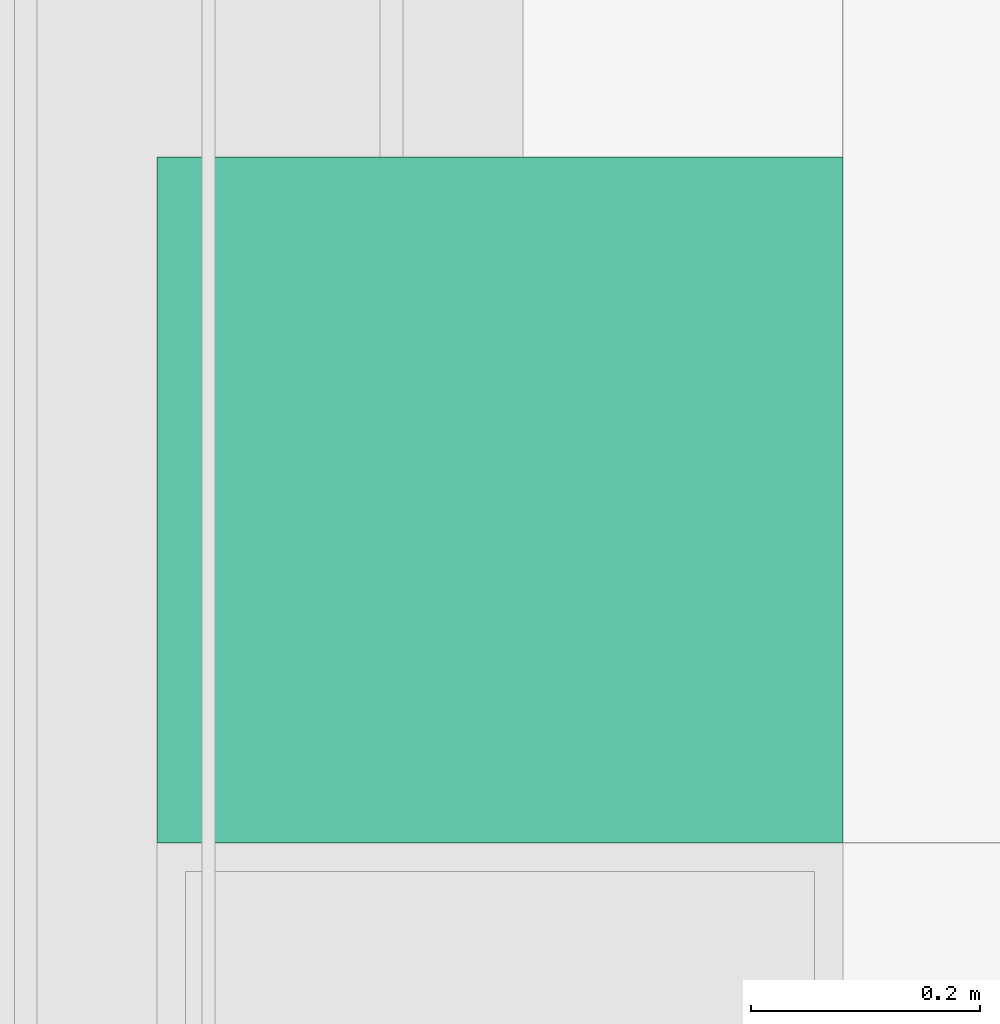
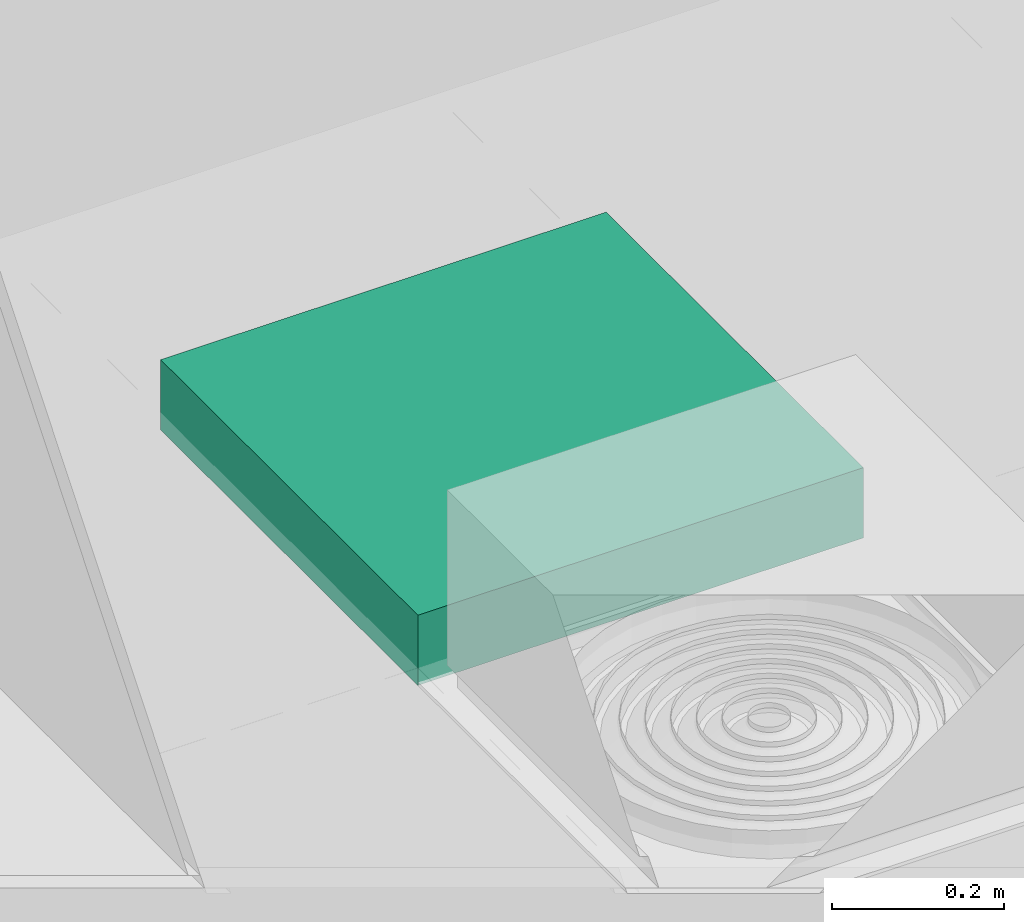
# One storey, part 287 of 347: 1 flow terminal.
"""IFC2X3 building model written with IfcOpenShell, lengths in millimetres."""

from ifc_helpers import new_model, entity, si_unit, converted_unit, derived_unit, money_unit, direction, frame, origin_with_axes, place, context, subcontext, project, spatial, open_shell, faceted_brep, surface_model, source, transform, mapped, type_object, type_shapes, element, save


model = new_model("IFC2X3")

# Units and contexts
model_context = context("Model", 3, precision=0.01, world=origin_with_axes(), true_north=direction((0.0, 1.0)))
plan_context = context("Plan", 3, precision=0.01, world=origin_with_axes(), true_north=direction((0.0, 1.0)))
body_context = subcontext(model_context, "Body", "Model", "MODEL_VIEW")
ifc_project = project(units=[si_unit("LENGTHUNIT", "METRE", prefix="MILLI"), si_unit("AREAUNIT", "SQUARE_METRE"), si_unit("VOLUMEUNIT", "CUBIC_METRE"), converted_unit("PLANEANGLEUNIT", "DEGREE", entity("IfcPlaneAngleMeasure", 0.0174532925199), si_unit("PLANEANGLEUNIT", "RADIAN"), dimensions=[0, 0, 0, 0, 0, 0, 0]), money_unit("EUR"), converted_unit("TIMEUNIT", "Year", entity("IfcTimeMeasure", 31556926.0), si_unit("TIMEUNIT", "SECOND"), dimensions=[0, 0, 1, 0, 0, 0, 0]), si_unit("MASSUNIT", "GRAM", prefix="KILO"), si_unit("THERMODYNAMICTEMPERATUREUNIT", "DEGREE_CELSIUS"), si_unit("LUMINOUSINTENSITYUNIT", "LUMEN"), si_unit("ENERGYUNIT", "JOULE", prefix="MEGA"), derived_unit("THERMALCONDUCTANCEUNIT", [(si_unit("POWERUNIT", "WATT"), 1), (si_unit("LENGTHUNIT", "METRE"), -1), (si_unit("THERMODYNAMICTEMPERATUREUNIT", "KELVIN"), -1)]), derived_unit("SPECIFICHEATCAPACITYUNIT", [(si_unit("ENERGYUNIT", "JOULE"), 1), (si_unit("MASSUNIT", "GRAM", prefix="KILO"), -1), (si_unit("THERMODYNAMICTEMPERATUREUNIT", "KELVIN"), -1)]), derived_unit("MASSDENSITYUNIT", [(si_unit("MASSUNIT", "GRAM", prefix="KILO"), 1), (si_unit("VOLUMEUNIT", "CUBIC_METRE"), -1)])], contexts=[model_context, plan_context])

# Site, building, storey
site_placement = place(None, origin_with_axes())
site = spatial("IfcSite", under=ifc_project, at=site_placement, Name="Site", CompositionType="ELEMENT")
building_placement = place(site_placement, origin_with_axes())
building = spatial("IfcBuilding", under=site, at=building_placement, Name="Naam gebouw", CompositionType="ELEMENT")
storey_placement = place(building_placement, origin_with_axes())
storey = spatial("IfcBuildingStorey", under=building, at=storey_placement, Name="begane grond", CompositionType="ELEMENT", Elevation=0.0)

# Flow terminal
lamp_type = type_object("IfcLampType", Name="TL plafond 25", PredefinedType="NOTDEFINED")
shared_shape = source(origin_with_axes(), body_context, "Body", "SurfaceModel", [
    faceted_brep([(0.0, 0.0, -100.0), (0.0, 0.0, 0.0), (-600.0, 0.0, 0.0), (-600.0, 0.0, -100.0), (0.0, 600.0, -100.0), (0.0, 600.0, 0.0), (-600.0, 600.0, 0.0), (-40.0, 40.0, 0.0), (-560.0, 40.0, 0.0), (-560.0, 560.0, 0.0), (-40.0, 560.0, 0.0), (-600.0, 600.0, -100.0), (-40.0, 40.0, -100.0), (-40.0, 560.0, -100.0), (-560.0, 560.0, -100.0), (-560.0, 40.0, -100.0)], [[[0, 1, 2, 3]], [[4, 5, 1, 0]], [[1, 5, 6, 2], [7, 8, 9, 10]], [[3, 2, 6, 11]], [[0, 3, 11, 4], [12, 13, 14, 15]], [[11, 6, 5, 4]], [[15, 8, 7, 12]], [[14, 9, 8, 15]], [[13, 10, 9, 14]], [[12, 7, 10, 13]]]),
    faceted_brep([(-40.0, 40.0, -16.3333333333), (-40.0, 40.0, 0.0), (-560.0, 40.0, 0.0), (-560.0, 40.0, -16.3333333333), (-40.0, 560.0, -16.3333333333), (-40.0, 560.0, 0.0), (-560.0, 560.0, 0.0), (-560.0, 560.0, -16.3333333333)], [[[0, 1, 2, 3]], [[4, 5, 1, 0]], [[1, 5, 6, 2]], [[3, 2, 6, 7]], [[0, 3, 7, 4]], [[7, 6, 5, 4]]]),
    surface_model("IfcShellBasedSurfaceModel", [(-559.0, 41.0, -100.0), (-559.0, 559.0, -100.0), (-40.0, 559.0, -100.0), (-40.0, 41.0, -100.0)], [open_shell([[[0, 1, 2, 3]]])]),
    faceted_brep([(-40.0, 40.0, -100.0), (-40.0, 40.0, -60.0), (-560.0, 40.0, -60.0), (-560.0, 40.0, -100.0), (-40.0, 560.0, -100.0), (-40.0, 560.0, -60.0), (-560.0, 560.0, -60.0), (-41.0, 41.0, -60.0), (-559.0, 41.0, -60.0), (-559.0, 559.0, -60.0), (-41.0, 559.0, -60.0), (-560.0, 560.0, -100.0), (-41.0, 41.0, -100.0), (-41.0, 559.0, -100.0), (-559.0, 559.0, -100.0), (-559.0, 41.0, -100.0)], [[[0, 1, 2, 3]], [[4, 5, 1, 0]], [[1, 5, 6, 2], [7, 8, 9, 10]], [[3, 2, 6, 11]], [[0, 3, 11, 4], [12, 13, 14, 15]], [[11, 6, 5, 4]], [[15, 8, 7, 12]], [[14, 9, 8, 15]], [[13, 10, 9, 14]], [[12, 7, 10, 13]]]),
    faceted_brep([(-40.0, 144.0, -48.3333333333), (-560.0, 144.0, -48.3333333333), (-560.0, 149.740251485, -47.191526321), (-40.0, 149.740251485, -47.191526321), (-40.0, 138.259748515, -47.191526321), (-560.0, 138.259748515, -47.191526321), (-560.0, 133.393398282, -43.9399350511), (-560.0, 130.141807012, -39.0735848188), (-560.0, 129.0, -33.3333333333), (-560.0, 130.141807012, -27.5930818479), (-560.0, 133.393398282, -22.7267316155), (-560.0, 138.259748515, -19.4751403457), (-560.0, 144.0, -18.3333333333), (-560.0, 149.740251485, -19.4751403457), (-560.0, 154.606601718, -22.7267316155), (-560.0, 157.858192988, -27.5930818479), (-560.0, 159.0, -33.3333333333), (-560.0, 157.858192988, -39.0735848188), (-560.0, 154.606601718, -43.9399350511), (-560.0, 144.0, -46.3333333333), (-560.0, 148.974884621, -45.343767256), (-560.0, 153.192388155, -42.5257214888), (-560.0, 156.010433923, -38.3082179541), (-560.0, 157.0, -33.3333333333), (-560.0, 156.010433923, -28.3584487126), (-560.0, 153.192388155, -24.1409451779), (-560.0, 148.974884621, -21.3228994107), (-560.0, 144.0, -20.3333333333), (-560.0, 139.025115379, -21.3228994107), (-560.0, 134.807611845, -24.1409451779), (-560.0, 131.989566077, -28.3584487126), (-560.0, 131.0, -33.3333333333), (-560.0, 131.989566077, -38.3082179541), (-560.0, 134.807611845, -42.5257214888), (-560.0, 139.025115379, -45.343767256), (-40.0, 154.606601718, -43.9399350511), (-40.0, 157.858192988, -39.0735848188), (-40.0, 159.0, -33.3333333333), (-40.0, 157.858192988, -27.5930818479), (-40.0, 154.606601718, -22.7267316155), (-40.0, 149.740251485, -19.4751403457), (-40.0, 144.0, -18.3333333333), (-40.0, 138.259748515, -19.4751403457), (-40.0, 133.393398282, -22.7267316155), (-40.0, 130.141807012, -27.5930818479), (-40.0, 129.0, -33.3333333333), (-40.0, 130.141807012, -39.0735848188), (-40.0, 133.393398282, -43.9399350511), (-40.0, 144.0, -46.3333333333), (-40.0, 139.025115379, -45.343767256), (-40.0, 134.807611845, -42.5257214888), (-40.0, 131.989566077, -38.3082179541), (-40.0, 131.0, -33.3333333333), (-40.0, 131.989566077, -28.3584487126), (-40.0, 134.807611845, -24.1409451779), (-40.0, 139.025115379, -21.3228994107), (-40.0, 144.0, -20.3333333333), (-40.0, 148.974884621, -21.3228994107), (-40.0, 153.192388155, -24.1409451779), (-40.0, 156.010433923, -28.3584487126), (-40.0, 157.0, -33.3333333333), (-40.0, 156.010433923, -38.3082179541), (-40.0, 153.192388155, -42.5257214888), (-40.0, 148.974884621, -45.343767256)], [[[0, 1, 2, 3]], [[4, 5, 1, 0]], [[1, 5, 6, 7, 8, 9, 10, 11, 12, 13, 14, 15, 16, 17, 18, 2], [19, 20, 21, 22, 23, 24, 25, 26, 27, 28, 29, 30, 31, 32, 33, 34]], [[3, 2, 18, 35]], [[0, 3, 35, 36, 37, 38, 39, 40, 41, 42, 43, 44, 45, 46, 47, 4], [48, 49, 50, 51, 52, 53, 54, 55, 56, 57, 58, 59, 60, 61, 62, 63]], [[47, 6, 5, 4]], [[46, 7, 6, 47]], [[45, 8, 7, 46]], [[44, 9, 8, 45]], [[43, 10, 9, 44]], [[42, 11, 10, 43]], [[41, 12, 11, 42]], [[40, 13, 12, 41]], [[39, 14, 13, 40]], [[38, 15, 14, 39]], [[37, 16, 15, 38]], [[36, 17, 16, 37]], [[35, 18, 17, 36]], [[63, 20, 19, 48]], [[62, 21, 20, 63]], [[61, 22, 21, 62]], [[60, 23, 22, 61]], [[59, 24, 23, 60]], [[58, 25, 24, 59]], [[57, 26, 25, 58]], [[56, 27, 26, 57]], [[55, 28, 27, 56]], [[54, 29, 28, 55]], [[53, 30, 29, 54]], [[52, 31, 30, 53]], [[51, 32, 31, 52]], [[50, 33, 32, 51]], [[49, 34, 33, 50]], [[48, 19, 34, 49]]]),
    faceted_brep([(-40.0, 248.0, -48.3333333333), (-560.0, 248.0, -48.3333333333), (-560.0, 253.740251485, -47.191526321), (-40.0, 253.740251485, -47.191526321), (-40.0, 242.259748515, -47.191526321), (-560.0, 242.259748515, -47.191526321), (-560.0, 237.393398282, -43.9399350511), (-560.0, 234.141807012, -39.0735848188), (-560.0, 233.0, -33.3333333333), (-560.0, 234.141807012, -27.5930818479), (-560.0, 237.393398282, -22.7267316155), (-560.0, 242.259748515, -19.4751403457), (-560.0, 248.0, -18.3333333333), (-560.0, 253.740251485, -19.4751403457), (-560.0, 258.606601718, -22.7267316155), (-560.0, 261.858192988, -27.5930818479), (-560.0, 263.0, -33.3333333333), (-560.0, 261.858192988, -39.0735848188), (-560.0, 258.606601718, -43.9399350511), (-560.0, 248.0, -46.3333333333), (-560.0, 252.974884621, -45.343767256), (-560.0, 257.192388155, -42.5257214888), (-560.0, 260.010433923, -38.3082179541), (-560.0, 261.0, -33.3333333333), (-560.0, 260.010433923, -28.3584487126), (-560.0, 257.192388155, -24.1409451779), (-560.0, 252.974884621, -21.3228994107), (-560.0, 248.0, -20.3333333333), (-560.0, 243.025115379, -21.3228994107), (-560.0, 238.807611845, -24.1409451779), (-560.0, 235.989566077, -28.3584487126), (-560.0, 235.0, -33.3333333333), (-560.0, 235.989566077, -38.3082179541), (-560.0, 238.807611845, -42.5257214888), (-560.0, 243.025115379, -45.343767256), (-40.0, 258.606601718, -43.9399350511), (-40.0, 261.858192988, -39.0735848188), (-40.0, 263.0, -33.3333333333), (-40.0, 261.858192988, -27.5930818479), (-40.0, 258.606601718, -22.7267316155), (-40.0, 253.740251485, -19.4751403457), (-40.0, 248.0, -18.3333333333), (-40.0, 242.259748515, -19.4751403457), (-40.0, 237.393398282, -22.7267316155), (-40.0, 234.141807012, -27.5930818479), (-40.0, 233.0, -33.3333333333), (-40.0, 234.141807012, -39.0735848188), (-40.0, 237.393398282, -43.9399350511), (-40.0, 248.0, -46.3333333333), (-40.0, 243.025115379, -45.343767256), (-40.0, 238.807611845, -42.5257214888), (-40.0, 235.989566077, -38.3082179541), (-40.0, 235.0, -33.3333333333), (-40.0, 235.989566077, -28.3584487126), (-40.0, 238.807611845, -24.1409451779), (-40.0, 243.025115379, -21.3228994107), (-40.0, 248.0, -20.3333333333), (-40.0, 252.974884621, -21.3228994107), (-40.0, 257.192388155, -24.1409451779), (-40.0, 260.010433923, -28.3584487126), (-40.0, 261.0, -33.3333333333), (-40.0, 260.010433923, -38.3082179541), (-40.0, 257.192388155, -42.5257214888), (-40.0, 252.974884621, -45.343767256)], [[[0, 1, 2, 3]], [[4, 5, 1, 0]], [[1, 5, 6, 7, 8, 9, 10, 11, 12, 13, 14, 15, 16, 17, 18, 2], [19, 20, 21, 22, 23, 24, 25, 26, 27, 28, 29, 30, 31, 32, 33, 34]], [[3, 2, 18, 35]], [[0, 3, 35, 36, 37, 38, 39, 40, 41, 42, 43, 44, 45, 46, 47, 4], [48, 49, 50, 51, 52, 53, 54, 55, 56, 57, 58, 59, 60, 61, 62, 63]], [[47, 6, 5, 4]], [[46, 7, 6, 47]], [[45, 8, 7, 46]], [[44, 9, 8, 45]], [[43, 10, 9, 44]], [[42, 11, 10, 43]], [[41, 12, 11, 42]], [[40, 13, 12, 41]], [[39, 14, 13, 40]], [[38, 15, 14, 39]], [[37, 16, 15, 38]], [[36, 17, 16, 37]], [[35, 18, 17, 36]], [[63, 20, 19, 48]], [[62, 21, 20, 63]], [[61, 22, 21, 62]], [[60, 23, 22, 61]], [[59, 24, 23, 60]], [[58, 25, 24, 59]], [[57, 26, 25, 58]], [[56, 27, 26, 57]], [[55, 28, 27, 56]], [[54, 29, 28, 55]], [[53, 30, 29, 54]], [[52, 31, 30, 53]], [[51, 32, 31, 52]], [[50, 33, 32, 51]], [[49, 34, 33, 50]], [[48, 19, 34, 49]]]),
    faceted_brep([(-40.0, 352.0, -48.3333333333), (-560.0, 352.0, -48.3333333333), (-560.0, 357.740251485, -47.191526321), (-40.0, 357.740251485, -47.191526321), (-40.0, 346.259748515, -47.191526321), (-560.0, 346.259748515, -47.191526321), (-560.0, 341.393398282, -43.9399350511), (-560.0, 338.141807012, -39.0735848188), (-560.0, 337.0, -33.3333333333), (-560.0, 338.141807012, -27.5930818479), (-560.0, 341.393398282, -22.7267316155), (-560.0, 346.259748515, -19.4751403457), (-560.0, 352.0, -18.3333333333), (-560.0, 357.740251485, -19.4751403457), (-560.0, 362.606601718, -22.7267316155), (-560.0, 365.858192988, -27.5930818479), (-560.0, 367.0, -33.3333333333), (-560.0, 365.858192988, -39.0735848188), (-560.0, 362.606601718, -43.9399350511), (-560.0, 352.0, -46.3333333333), (-560.0, 356.974884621, -45.343767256), (-560.0, 361.192388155, -42.5257214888), (-560.0, 364.010433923, -38.3082179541), (-560.0, 365.0, -33.3333333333), (-560.0, 364.010433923, -28.3584487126), (-560.0, 361.192388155, -24.1409451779), (-560.0, 356.974884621, -21.3228994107), (-560.0, 352.0, -20.3333333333), (-560.0, 347.025115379, -21.3228994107), (-560.0, 342.807611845, -24.1409451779), (-560.0, 339.989566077, -28.3584487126), (-560.0, 339.0, -33.3333333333), (-560.0, 339.989566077, -38.3082179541), (-560.0, 342.807611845, -42.5257214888), (-560.0, 347.025115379, -45.343767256), (-40.0, 362.606601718, -43.9399350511), (-40.0, 365.858192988, -39.0735848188), (-40.0, 367.0, -33.3333333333), (-40.0, 365.858192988, -27.5930818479), (-40.0, 362.606601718, -22.7267316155), (-40.0, 357.740251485, -19.4751403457), (-40.0, 352.0, -18.3333333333), (-40.0, 346.259748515, -19.4751403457), (-40.0, 341.393398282, -22.7267316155), (-40.0, 338.141807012, -27.5930818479), (-40.0, 337.0, -33.3333333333), (-40.0, 338.141807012, -39.0735848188), (-40.0, 341.393398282, -43.9399350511), (-40.0, 352.0, -46.3333333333), (-40.0, 347.025115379, -45.343767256), (-40.0, 342.807611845, -42.5257214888), (-40.0, 339.989566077, -38.3082179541), (-40.0, 339.0, -33.3333333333), (-40.0, 339.989566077, -28.3584487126), (-40.0, 342.807611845, -24.1409451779), (-40.0, 347.025115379, -21.3228994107), (-40.0, 352.0, -20.3333333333), (-40.0, 356.974884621, -21.3228994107), (-40.0, 361.192388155, -24.1409451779), (-40.0, 364.010433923, -28.3584487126), (-40.0, 365.0, -33.3333333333), (-40.0, 364.010433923, -38.3082179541), (-40.0, 361.192388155, -42.5257214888), (-40.0, 356.974884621, -45.343767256)], [[[0, 1, 2, 3]], [[4, 5, 1, 0]], [[1, 5, 6, 7, 8, 9, 10, 11, 12, 13, 14, 15, 16, 17, 18, 2], [19, 20, 21, 22, 23, 24, 25, 26, 27, 28, 29, 30, 31, 32, 33, 34]], [[3, 2, 18, 35]], [[0, 3, 35, 36, 37, 38, 39, 40, 41, 42, 43, 44, 45, 46, 47, 4], [48, 49, 50, 51, 52, 53, 54, 55, 56, 57, 58, 59, 60, 61, 62, 63]], [[47, 6, 5, 4]], [[46, 7, 6, 47]], [[45, 8, 7, 46]], [[44, 9, 8, 45]], [[43, 10, 9, 44]], [[42, 11, 10, 43]], [[41, 12, 11, 42]], [[40, 13, 12, 41]], [[39, 14, 13, 40]], [[38, 15, 14, 39]], [[37, 16, 15, 38]], [[36, 17, 16, 37]], [[35, 18, 17, 36]], [[63, 20, 19, 48]], [[62, 21, 20, 63]], [[61, 22, 21, 62]], [[60, 23, 22, 61]], [[59, 24, 23, 60]], [[58, 25, 24, 59]], [[57, 26, 25, 58]], [[56, 27, 26, 57]], [[55, 28, 27, 56]], [[54, 29, 28, 55]], [[53, 30, 29, 54]], [[52, 31, 30, 53]], [[51, 32, 31, 52]], [[50, 33, 32, 51]], [[49, 34, 33, 50]], [[48, 19, 34, 49]]]),
    faceted_brep([(-40.0, 456.0, -48.3333333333), (-560.0, 456.0, -48.3333333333), (-560.0, 461.740251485, -47.191526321), (-40.0, 461.740251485, -47.191526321), (-40.0, 450.259748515, -47.191526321), (-560.0, 450.259748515, -47.191526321), (-560.0, 445.393398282, -43.9399350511), (-560.0, 442.141807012, -39.0735848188), (-560.0, 441.0, -33.3333333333), (-560.0, 442.141807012, -27.5930818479), (-560.0, 445.393398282, -22.7267316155), (-560.0, 450.259748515, -19.4751403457), (-560.0, 456.0, -18.3333333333), (-560.0, 461.740251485, -19.4751403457), (-560.0, 466.606601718, -22.7267316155), (-560.0, 469.858192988, -27.5930818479), (-560.0, 471.0, -33.3333333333), (-560.0, 469.858192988, -39.0735848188), (-560.0, 466.606601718, -43.9399350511), (-560.0, 456.0, -46.3333333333), (-560.0, 460.974884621, -45.343767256), (-560.0, 465.192388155, -42.5257214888), (-560.0, 468.010433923, -38.3082179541), (-560.0, 469.0, -33.3333333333), (-560.0, 468.010433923, -28.3584487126), (-560.0, 465.192388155, -24.1409451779), (-560.0, 460.974884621, -21.3228994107), (-560.0, 456.0, -20.3333333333), (-560.0, 451.025115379, -21.3228994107), (-560.0, 446.807611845, -24.1409451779), (-560.0, 443.989566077, -28.3584487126), (-560.0, 443.0, -33.3333333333), (-560.0, 443.989566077, -38.3082179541), (-560.0, 446.807611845, -42.5257214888), (-560.0, 451.025115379, -45.343767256), (-40.0, 466.606601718, -43.9399350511), (-40.0, 469.858192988, -39.0735848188), (-40.0, 471.0, -33.3333333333), (-40.0, 469.858192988, -27.5930818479), (-40.0, 466.606601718, -22.7267316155), (-40.0, 461.740251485, -19.4751403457), (-40.0, 456.0, -18.3333333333), (-40.0, 450.259748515, -19.4751403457), (-40.0, 445.393398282, -22.7267316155), (-40.0, 442.141807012, -27.5930818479), (-40.0, 441.0, -33.3333333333), (-40.0, 442.141807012, -39.0735848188), (-40.0, 445.393398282, -43.9399350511), (-40.0, 456.0, -46.3333333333), (-40.0, 451.025115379, -45.343767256), (-40.0, 446.807611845, -42.5257214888), (-40.0, 443.989566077, -38.3082179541), (-40.0, 443.0, -33.3333333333), (-40.0, 443.989566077, -28.3584487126), (-40.0, 446.807611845, -24.1409451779), (-40.0, 451.025115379, -21.3228994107), (-40.0, 456.0, -20.3333333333), (-40.0, 460.974884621, -21.3228994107), (-40.0, 465.192388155, -24.1409451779), (-40.0, 468.010433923, -28.3584487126), (-40.0, 469.0, -33.3333333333), (-40.0, 468.010433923, -38.3082179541), (-40.0, 465.192388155, -42.5257214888), (-40.0, 460.974884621, -45.343767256)], [[[0, 1, 2, 3]], [[4, 5, 1, 0]], [[1, 5, 6, 7, 8, 9, 10, 11, 12, 13, 14, 15, 16, 17, 18, 2], [19, 20, 21, 22, 23, 24, 25, 26, 27, 28, 29, 30, 31, 32, 33, 34]], [[3, 2, 18, 35]], [[0, 3, 35, 36, 37, 38, 39, 40, 41, 42, 43, 44, 45, 46, 47, 4], [48, 49, 50, 51, 52, 53, 54, 55, 56, 57, 58, 59, 60, 61, 62, 63]], [[47, 6, 5, 4]], [[46, 7, 6, 47]], [[45, 8, 7, 46]], [[44, 9, 8, 45]], [[43, 10, 9, 44]], [[42, 11, 10, 43]], [[41, 12, 11, 42]], [[40, 13, 12, 41]], [[39, 14, 13, 40]], [[38, 15, 14, 39]], [[37, 16, 15, 38]], [[36, 17, 16, 37]], [[35, 18, 17, 36]], [[63, 20, 19, 48]], [[62, 21, 20, 63]], [[61, 22, 21, 62]], [[60, 23, 22, 61]], [[59, 24, 23, 60]], [[58, 25, 24, 59]], [[57, 26, 25, 58]], [[56, 27, 26, 57]], [[55, 28, 27, 56]], [[54, 29, 28, 55]], [[53, 30, 29, 54]], [[52, 31, 30, 53]], [[51, 32, 31, 52]], [[50, 33, 32, 51]], [[49, 34, 33, 50]], [[48, 19, 34, 49]]]),
])
type_shapes(lamp_type, [shared_shape])
flow_terminal_placement = place(storey_placement, frame((45100.0, 40087.5, 2695.0), z_axis=(0.0, 0.0, 1.0), x_axis=(1.0, 0.0, 0.0)))
element("IfcFlowTerminal", 1, at=flow_terminal_placement, inside=storey, type_object=lamp_type, Name="63_Lamp-x", ObjectType="Lamp", context=body_context, shape_type="MappedRepresentation", body=[
    mapped(shared_shape, transform((0.0, 0.0, 0.0))),
])

save(model, "model.ifc")
